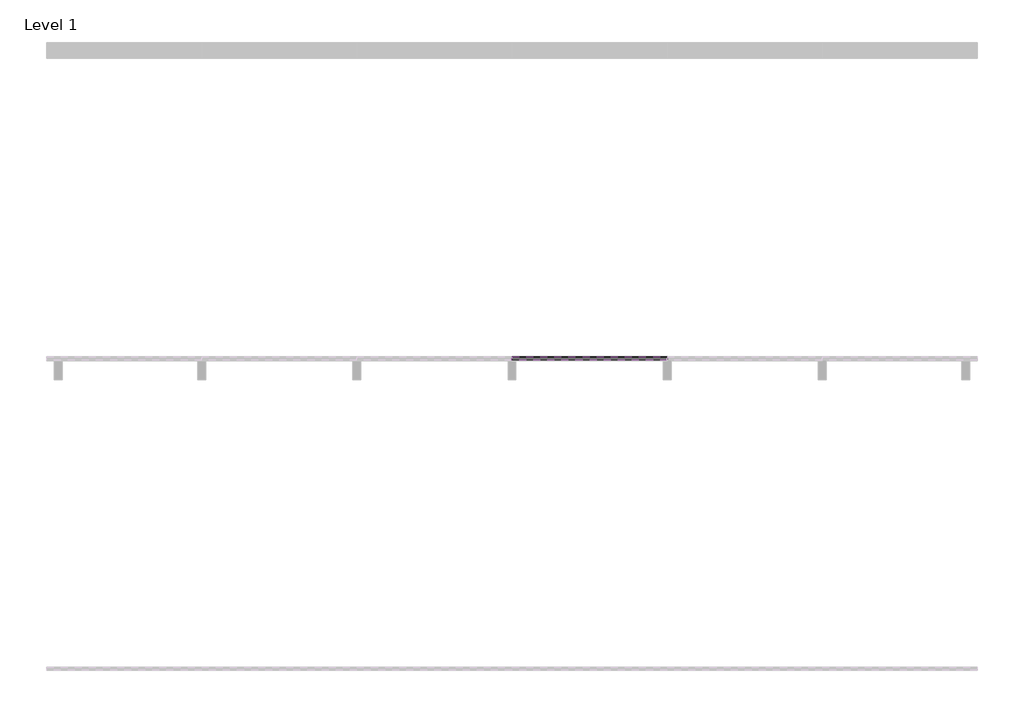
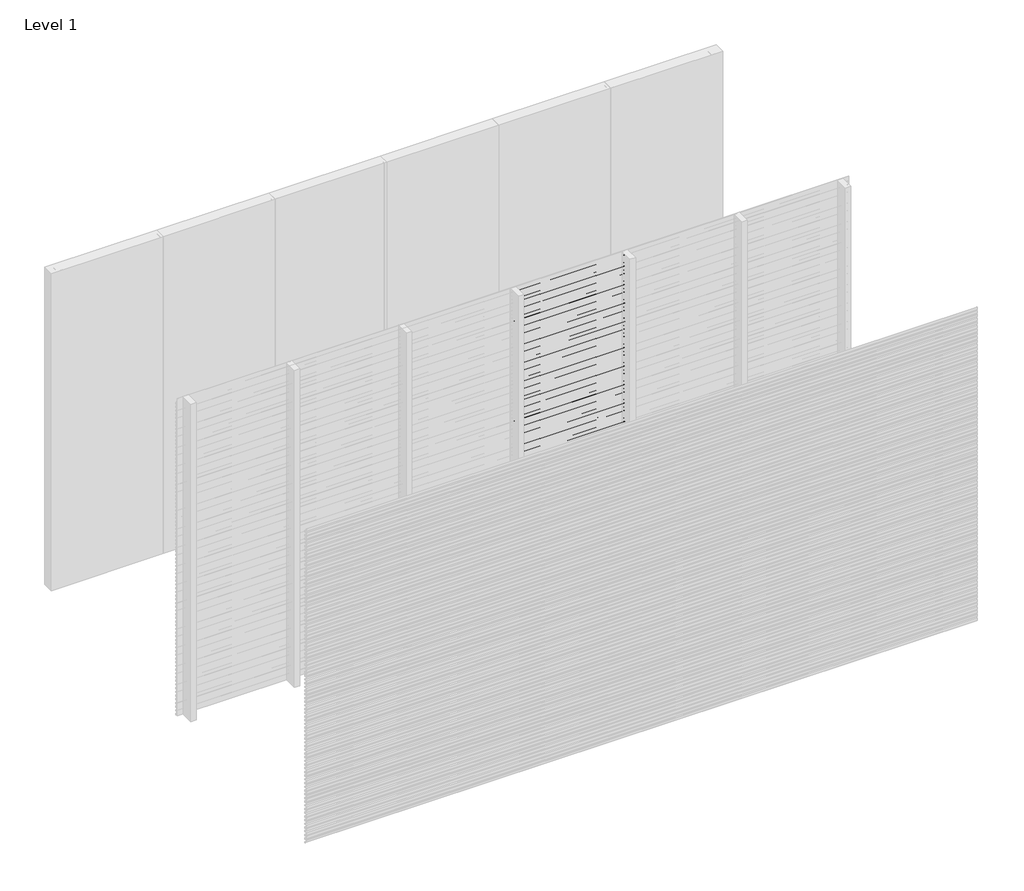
# One storey, part 5 of 25: 97 proxies.
"""IFC4 building model written with IfcOpenShell, lengths in millimetres."""

from ifc_helpers import new_model, si_unit, frame, origin, place, context, project, spatial, polyline, outline, extrude, element, save

model = new_model("IFC4")

# Units and contexts
model_context = context("Model", 3, world=origin())
ifc_project = project(units=[si_unit("LENGTHUNIT", "METRE", prefix="MILLI")], contexts=[model_context])

# Site, building, storey
site = spatial("IfcSite", under=ifc_project)
building = spatial("IfcBuilding", under=site)
storey = spatial("IfcBuildingStorey", under=building, Name="Level 1", Elevation=0.0)

# Proxies
placement = place(None, origin())
element("IfcBuildingElementProxy", 1, Name="Wall Sweeps", at=placement, inside=storey, context=model_context, shape_type="SweptSolid", body=[
    extrude(outline(polyline([(-17995.0, 2975.0), (-17995.0, 2963.942893), (-17976.0, 2948.0), (-17976.0, 2935.0), (-17997.0, 2952.6210923), (-17997.0, 2975.0), (-17995.0, 2975.0)])), frame((3000.0, 0.0, 0.0), z_axis=(1.0, 0.0, 0.0), x_axis=(0.0, 1.0, 0.0)), (0.0, 0.0, 1.0), 999.9999999),
])
element("IfcBuildingElementProxy", 2, Name="Wall Sweeps", at=placement, inside=storey, context=model_context, shape_type="SweptSolid", body=[
    extrude(outline(polyline([(-17995.0, 2940.0), (-17995.0, 2928.942893), (-17976.0, 2913.0), (-17976.0, 2900.0), (-17997.0, 2917.6210923), (-17997.0, 2940.0), (-17995.0, 2940.0)])), frame((3000.0, 0.0, 0.0), z_axis=(1.0, 0.0, 0.0), x_axis=(0.0, 1.0, 0.0)), (0.0, 0.0, 1.0), 999.9999999),
])
element("IfcBuildingElementProxy", 3, Name="Wall Sweeps", at=placement, inside=storey, context=model_context, shape_type="SweptSolid", body=[
    extrude(outline(polyline([(-17995.0, 2905.0), (-17995.0, 2893.942893), (-17976.0, 2878.0), (-17976.0, 2865.0), (-17997.0, 2882.6210923), (-17997.0, 2905.0), (-17995.0, 2905.0)])), frame((3000.0, 0.0, 0.0), z_axis=(1.0, 0.0, 0.0), x_axis=(0.0, 1.0, 0.0)), (0.0, 0.0, 1.0), 999.9999999),
])
element("IfcBuildingElementProxy", 4, Name="Wall Sweeps", at=placement, inside=storey, context=model_context, shape_type="SweptSolid", body=[
    extrude(outline(polyline([(-17995.0, 2870.0), (-17995.0, 2858.942893), (-17976.0, 2843.0), (-17976.0, 2830.0), (-17997.0, 2847.6210923), (-17997.0, 2870.0), (-17995.0, 2870.0)])), frame((3000.0, 0.0, 0.0), z_axis=(1.0, 0.0, 0.0), x_axis=(0.0, 1.0, 0.0)), (0.0, 0.0, 1.0), 999.9999999),
])
element("IfcBuildingElementProxy", 5, Name="Wall Sweeps", at=placement, inside=storey, context=model_context, shape_type="SweptSolid", body=[
    extrude(outline(polyline([(-17995.0, 2835.0), (-17995.0, 2823.942893), (-17976.0, 2808.0), (-17976.0, 2795.0), (-17997.0, 2812.6210923), (-17997.0, 2835.0), (-17995.0, 2835.0)])), frame((3000.0, 0.0, 0.0), z_axis=(1.0, 0.0, 0.0), x_axis=(0.0, 1.0, 0.0)), (0.0, 0.0, 1.0), 999.9999999),
])
element("IfcBuildingElementProxy", 6, Name="Wall Sweeps", at=placement, inside=storey, context=model_context, shape_type="SweptSolid", body=[
    extrude(outline(polyline([(-17995.0, 2800.0), (-17995.0, 2788.942893), (-17976.0, 2773.0), (-17976.0, 2760.0), (-17997.0, 2777.6210923), (-17997.0, 2800.0), (-17995.0, 2800.0)])), frame((3000.0, 0.0, 0.0), z_axis=(1.0, 0.0, 0.0), x_axis=(0.0, 1.0, 0.0)), (0.0, 0.0, 1.0), 999.9999999),
])
element("IfcBuildingElementProxy", 7, Name="Wall Sweeps", at=placement, inside=storey, context=model_context, shape_type="SweptSolid", body=[
    extrude(outline(polyline([(-17995.0, 2765.0), (-17995.0, 2753.942893), (-17976.0, 2738.0), (-17976.0, 2725.0), (-17997.0, 2742.6210923), (-17997.0, 2765.0), (-17995.0, 2765.0)])), frame((3000.0, 0.0, 0.0), z_axis=(1.0, 0.0, 0.0), x_axis=(0.0, 1.0, 0.0)), (0.0, 0.0, 1.0), 999.9999999),
])
element("IfcBuildingElementProxy", 8, Name="Wall Sweeps", at=placement, inside=storey, context=model_context, shape_type="SweptSolid", body=[
    extrude(outline(polyline([(-17995.0, 2730.0), (-17995.0, 2718.942893), (-17976.0, 2703.0), (-17976.0, 2690.0), (-17997.0, 2707.6210923), (-17997.0, 2730.0), (-17995.0, 2730.0)])), frame((3000.0, 0.0, 0.0), z_axis=(1.0, 0.0, 0.0), x_axis=(0.0, 1.0, 0.0)), (0.0, 0.0, 1.0), 999.9999999),
])
element("IfcBuildingElementProxy", 9, Name="Wall Sweeps", at=placement, inside=storey, context=model_context, shape_type="SweptSolid", body=[
    extrude(outline(polyline([(-17995.0, 2695.0), (-17995.0, 2683.942893), (-17976.0, 2668.0), (-17976.0, 2655.0), (-17997.0, 2672.6210923), (-17997.0, 2695.0), (-17995.0, 2695.0)])), frame((3000.0, 0.0, 0.0), z_axis=(1.0, 0.0, 0.0), x_axis=(0.0, 1.0, 0.0)), (0.0, 0.0, 1.0), 999.9999999),
])
element("IfcBuildingElementProxy", 10, Name="Wall Sweeps", at=placement, inside=storey, context=model_context, shape_type="SweptSolid", body=[
    extrude(outline(polyline([(-17995.0, 2660.0), (-17995.0, 2648.942893), (-17976.0, 2633.0), (-17976.0, 2620.0), (-17997.0, 2637.6210923), (-17997.0, 2660.0), (-17995.0, 2660.0)])), frame((3000.0, 0.0, 0.0), z_axis=(1.0, 0.0, 0.0), x_axis=(0.0, 1.0, 0.0)), (0.0, 0.0, 1.0), 999.9999999),
])
element("IfcBuildingElementProxy", 11, Name="Wall Sweeps", at=placement, inside=storey, context=model_context, shape_type="SweptSolid", body=[
    extrude(outline(polyline([(-17995.0, 2625.0), (-17995.0, 2613.942893), (-17976.0, 2598.0), (-17976.0, 2585.0), (-17997.0, 2602.6210923), (-17997.0, 2625.0), (-17995.0, 2625.0)])), frame((3000.0, 0.0, 0.0), z_axis=(1.0, 0.0, 0.0), x_axis=(0.0, 1.0, 0.0)), (0.0, 0.0, 1.0), 999.9999999),
])
element("IfcBuildingElementProxy", 12, Name="Wall Sweeps", at=placement, inside=storey, context=model_context, shape_type="SweptSolid", body=[
    extrude(outline(polyline([(-17995.0, 2590.0), (-17995.0, 2578.942893), (-17976.0, 2563.0), (-17976.0, 2550.0), (-17997.0, 2567.6210923), (-17997.0, 2590.0), (-17995.0, 2590.0)])), frame((3000.0, 0.0, 0.0), z_axis=(1.0, 0.0, 0.0), x_axis=(0.0, 1.0, 0.0)), (0.0, 0.0, 1.0), 999.9999999),
])
element("IfcBuildingElementProxy", 13, Name="Wall Sweeps", at=placement, inside=storey, context=model_context, shape_type="SweptSolid", body=[
    extrude(outline(polyline([(-17995.0, 2555.0), (-17995.0, 2543.942893), (-17976.0, 2528.0), (-17976.0, 2515.0), (-17997.0, 2532.6210923), (-17997.0, 2555.0), (-17995.0, 2555.0)])), frame((3000.0, 0.0, 0.0), z_axis=(1.0, 0.0, 0.0), x_axis=(0.0, 1.0, 0.0)), (0.0, 0.0, 1.0), 999.9999999),
])
element("IfcBuildingElementProxy", 14, Name="Wall Sweeps", at=placement, inside=storey, context=model_context, shape_type="SweptSolid", body=[
    extrude(outline(polyline([(-17995.0, 2520.0), (-17995.0, 2508.942893), (-17976.0, 2493.0), (-17976.0, 2480.0), (-17997.0, 2497.6210923), (-17997.0, 2520.0), (-17995.0, 2520.0)])), frame((3000.0, 0.0, 0.0), z_axis=(1.0, 0.0, 0.0), x_axis=(0.0, 1.0, 0.0)), (0.0, 0.0, 1.0), 999.9999999),
])
element("IfcBuildingElementProxy", 15, Name="Wall Sweeps", at=placement, inside=storey, context=model_context, shape_type="SweptSolid", body=[
    extrude(outline(polyline([(-17995.0, 2485.0), (-17995.0, 2473.942893), (-17976.0, 2458.0), (-17976.0, 2445.0), (-17997.0, 2462.6210923), (-17997.0, 2485.0), (-17995.0, 2485.0)])), frame((3000.0, 0.0, 0.0), z_axis=(1.0, 0.0, 0.0), x_axis=(0.0, 1.0, 0.0)), (0.0, 0.0, 1.0), 999.9999999),
])
element("IfcBuildingElementProxy", 16, Name="Wall Sweeps", at=placement, inside=storey, context=model_context, shape_type="SweptSolid", body=[
    extrude(outline(polyline([(-17995.0, 2450.0), (-17995.0, 2438.942893), (-17976.0, 2423.0), (-17976.0, 2410.0), (-17997.0, 2427.6210923), (-17997.0, 2450.0), (-17995.0, 2450.0)])), frame((3000.0, 0.0, 0.0), z_axis=(1.0, 0.0, 0.0), x_axis=(0.0, 1.0, 0.0)), (0.0, 0.0, 1.0), 999.9999999),
])
element("IfcBuildingElementProxy", 17, Name="Wall Sweeps", at=placement, inside=storey, context=model_context, shape_type="SweptSolid", body=[
    extrude(outline(polyline([(-17995.0, 2415.0), (-17995.0, 2403.942893), (-17976.0, 2388.0), (-17976.0, 2375.0), (-17997.0, 2392.6210923), (-17997.0, 2415.0), (-17995.0, 2415.0)])), frame((3000.0, 0.0, 0.0), z_axis=(1.0, 0.0, 0.0), x_axis=(0.0, 1.0, 0.0)), (0.0, 0.0, 1.0), 999.9999999),
])
element("IfcBuildingElementProxy", 18, Name="Wall Sweeps", at=placement, inside=storey, context=model_context, shape_type="SweptSolid", body=[
    extrude(outline(polyline([(-17995.0, 2380.0), (-17995.0, 2368.942893), (-17976.0, 2353.0), (-17976.0, 2340.0), (-17997.0, 2357.6210923), (-17997.0, 2380.0), (-17995.0, 2380.0)])), frame((3000.0, 0.0, 0.0), z_axis=(1.0, 0.0, 0.0), x_axis=(0.0, 1.0, 0.0)), (0.0, 0.0, 1.0), 999.9999999),
])
element("IfcBuildingElementProxy", 19, Name="Wall Sweeps", at=placement, inside=storey, context=model_context, shape_type="SweptSolid", body=[
    extrude(outline(polyline([(-17995.0, 2345.0), (-17995.0, 2333.942893), (-17976.0, 2318.0), (-17976.0, 2305.0), (-17997.0, 2322.6210923), (-17997.0, 2345.0), (-17995.0, 2345.0)])), frame((3000.0, 0.0, 0.0), z_axis=(1.0, 0.0, 0.0), x_axis=(0.0, 1.0, 0.0)), (0.0, 0.0, 1.0), 999.9999999),
])
element("IfcBuildingElementProxy", 20, Name="Wall Sweeps", at=placement, inside=storey, context=model_context, shape_type="SweptSolid", body=[
    extrude(outline(polyline([(-17995.0, 2310.0), (-17995.0, 2298.942893), (-17976.0, 2283.0), (-17976.0, 2270.0), (-17997.0, 2287.6210923), (-17997.0, 2310.0), (-17995.0, 2310.0)])), frame((3000.0, 0.0, 0.0), z_axis=(1.0, 0.0, 0.0), x_axis=(0.0, 1.0, 0.0)), (0.0, 0.0, 1.0), 999.9999999),
])
element("IfcBuildingElementProxy", 21, Name="Wall Sweeps", at=placement, inside=storey, context=model_context, shape_type="SweptSolid", body=[
    extrude(outline(polyline([(-17995.0, 2275.0), (-17995.0, 2263.942893), (-17976.0, 2248.0), (-17976.0, 2235.0), (-17997.0, 2252.6210923), (-17997.0, 2275.0), (-17995.0, 2275.0)])), frame((3000.0, 0.0, 0.0), z_axis=(1.0, 0.0, 0.0), x_axis=(0.0, 1.0, 0.0)), (0.0, 0.0, 1.0), 999.9999999),
])
element("IfcBuildingElementProxy", 22, Name="Wall Sweeps", at=placement, inside=storey, context=model_context, shape_type="SweptSolid", body=[
    extrude(outline(polyline([(-17995.0, 2240.0), (-17995.0, 2228.942893), (-17976.0, 2213.0), (-17976.0, 2200.0), (-17997.0, 2217.6210923), (-17997.0, 2240.0), (-17995.0, 2240.0)])), frame((3000.0, 0.0, 0.0), z_axis=(1.0, 0.0, 0.0), x_axis=(0.0, 1.0, 0.0)), (0.0, 0.0, 1.0), 999.9999999),
])
element("IfcBuildingElementProxy", 23, Name="Wall Sweeps", at=placement, inside=storey, context=model_context, shape_type="SweptSolid", body=[
    extrude(outline(polyline([(-17995.0, 2205.0), (-17995.0, 2193.942893), (-17976.0, 2178.0), (-17976.0, 2165.0), (-17997.0, 2182.6210923), (-17997.0, 2205.0), (-17995.0, 2205.0)])), frame((3000.0, 0.0, 0.0), z_axis=(1.0, 0.0, 0.0), x_axis=(0.0, 1.0, 0.0)), (0.0, 0.0, 1.0), 999.9999999),
])
element("IfcBuildingElementProxy", 24, Name="Wall Sweeps", at=placement, inside=storey, context=model_context, shape_type="SweptSolid", body=[
    extrude(outline(polyline([(-17995.0, 2170.0), (-17995.0, 2158.942893), (-17976.0, 2143.0), (-17976.0, 2130.0), (-17997.0, 2147.6210923), (-17997.0, 2170.0), (-17995.0, 2170.0)])), frame((3000.0, 0.0, 0.0), z_axis=(1.0, 0.0, 0.0), x_axis=(0.0, 1.0, 0.0)), (0.0, 0.0, 1.0), 999.9999999),
])
element("IfcBuildingElementProxy", 25, Name="Wall Sweeps", at=placement, inside=storey, context=model_context, shape_type="SweptSolid", body=[
    extrude(outline(polyline([(-17995.0, 2135.0), (-17995.0, 2123.942893), (-17976.0, 2108.0), (-17976.0, 2095.0), (-17997.0, 2112.6210923), (-17997.0, 2135.0), (-17995.0, 2135.0)])), frame((3000.0, 0.0, 0.0), z_axis=(1.0, 0.0, 0.0), x_axis=(0.0, 1.0, 0.0)), (0.0, 0.0, 1.0), 999.9999999),
])
element("IfcBuildingElementProxy", 26, Name="Wall Sweeps", at=placement, inside=storey, context=model_context, shape_type="SweptSolid", body=[
    extrude(outline(polyline([(-17995.0, 2100.0), (-17995.0, 2088.942893), (-17976.0, 2073.0), (-17976.0, 2060.0), (-17997.0, 2077.6210923), (-17997.0, 2100.0), (-17995.0, 2100.0)])), frame((3000.0, 0.0, 0.0), z_axis=(1.0, 0.0, 0.0), x_axis=(0.0, 1.0, 0.0)), (0.0, 0.0, 1.0), 999.9999999),
])
element("IfcBuildingElementProxy", 27, Name="Wall Sweeps", at=placement, inside=storey, context=model_context, shape_type="SweptSolid", body=[
    extrude(outline(polyline([(-17995.0, 2065.0), (-17995.0, 2053.942893), (-17976.0, 2038.0), (-17976.0, 2025.0), (-17997.0, 2042.6210923), (-17997.0, 2065.0), (-17995.0, 2065.0)])), frame((3000.0, 0.0, 0.0), z_axis=(1.0, 0.0, 0.0), x_axis=(0.0, 1.0, 0.0)), (0.0, 0.0, 1.0), 999.9999999),
])
element("IfcBuildingElementProxy", 28, Name="Wall Sweeps", at=placement, inside=storey, context=model_context, shape_type="SweptSolid", body=[
    extrude(outline(polyline([(-17995.0, 2030.0), (-17995.0, 2018.942893), (-17976.0, 2003.0), (-17976.0, 1990.0), (-17997.0, 2007.6210923), (-17997.0, 2030.0), (-17995.0, 2030.0)])), frame((3000.0, 0.0, 0.0), z_axis=(1.0, 0.0, 0.0), x_axis=(0.0, 1.0, 0.0)), (0.0, 0.0, 1.0), 999.9999999),
])
element("IfcBuildingElementProxy", 29, Name="Wall Sweeps", at=placement, inside=storey, context=model_context, shape_type="SweptSolid", body=[
    extrude(outline(polyline([(-17995.0, 1995.0), (-17995.0, 1983.942893), (-17976.0, 1968.0), (-17976.0, 1955.0), (-17997.0, 1972.6210923), (-17997.0, 1995.0), (-17995.0, 1995.0)])), frame((3000.0, 0.0, 0.0), z_axis=(1.0, 0.0, 0.0), x_axis=(0.0, 1.0, 0.0)), (0.0, 0.0, 1.0), 999.9999999),
])
element("IfcBuildingElementProxy", 30, Name="Wall Sweeps", at=placement, inside=storey, context=model_context, shape_type="SweptSolid", body=[
    extrude(outline(polyline([(-17995.0, 1960.0), (-17995.0, 1948.942893), (-17976.0, 1933.0), (-17976.0, 1920.0), (-17997.0, 1937.6210923), (-17997.0, 1960.0), (-17995.0, 1960.0)])), frame((3000.0, 0.0, 0.0), z_axis=(1.0, 0.0, 0.0), x_axis=(0.0, 1.0, 0.0)), (0.0, 0.0, 1.0), 999.9999999),
])
element("IfcBuildingElementProxy", 31, Name="Wall Sweeps", at=placement, inside=storey, context=model_context, shape_type="SweptSolid", body=[
    extrude(outline(polyline([(-17995.0, 1925.0), (-17995.0, 1913.942893), (-17976.0, 1898.0), (-17976.0, 1885.0), (-17997.0, 1902.6210923), (-17997.0, 1925.0), (-17995.0, 1925.0)])), frame((3000.0, 0.0, 0.0), z_axis=(1.0, 0.0, 0.0), x_axis=(0.0, 1.0, 0.0)), (0.0, 0.0, 1.0), 999.9999999),
])
element("IfcBuildingElementProxy", 32, Name="Wall Sweeps", at=placement, inside=storey, context=model_context, shape_type="SweptSolid", body=[
    extrude(outline(polyline([(-17995.0, 1890.0), (-17995.0, 1878.942893), (-17976.0, 1863.0), (-17976.0, 1850.0), (-17997.0, 1867.6210923), (-17997.0, 1890.0), (-17995.0, 1890.0)])), frame((3000.0, 0.0, 0.0), z_axis=(1.0, 0.0, 0.0), x_axis=(0.0, 1.0, 0.0)), (0.0, 0.0, 1.0), 999.9999999),
])
element("IfcBuildingElementProxy", 33, Name="Wall Sweeps", at=placement, inside=storey, context=model_context, shape_type="SweptSolid", body=[
    extrude(outline(polyline([(-17995.0, 1855.0), (-17995.0, 1843.942893), (-17976.0, 1828.0), (-17976.0, 1815.0), (-17997.0, 1832.6210923), (-17997.0, 1855.0), (-17995.0, 1855.0)])), frame((3000.0, 0.0, 0.0), z_axis=(1.0, 0.0, 0.0), x_axis=(0.0, 1.0, 0.0)), (0.0, 0.0, 1.0), 999.9999999),
])
element("IfcBuildingElementProxy", 34, Name="Wall Sweeps", at=placement, inside=storey, context=model_context, shape_type="SweptSolid", body=[
    extrude(outline(polyline([(-17995.0, 1820.0), (-17995.0, 1808.942893), (-17976.0, 1793.0), (-17976.0, 1780.0), (-17997.0, 1797.6210923), (-17997.0, 1820.0), (-17995.0, 1820.0)])), frame((3000.0, 0.0, 0.0), z_axis=(1.0, 0.0, 0.0), x_axis=(0.0, 1.0, 0.0)), (0.0, 0.0, 1.0), 999.9999999),
])
element("IfcBuildingElementProxy", 35, Name="Wall Sweeps", at=placement, inside=storey, context=model_context, shape_type="SweptSolid", body=[
    extrude(outline(polyline([(-17995.0, 1785.0), (-17995.0, 1773.942893), (-17976.0, 1758.0), (-17976.0, 1745.0), (-17997.0, 1762.6210923), (-17997.0, 1785.0), (-17995.0, 1785.0)])), frame((3000.0, 0.0, 0.0), z_axis=(1.0, 0.0, 0.0), x_axis=(0.0, 1.0, 0.0)), (0.0, 0.0, 1.0), 999.9999999),
])
element("IfcBuildingElementProxy", 36, Name="Wall Sweeps", at=placement, inside=storey, context=model_context, shape_type="SweptSolid", body=[
    extrude(outline(polyline([(-17995.0, 1750.0), (-17995.0, 1738.942893), (-17976.0, 1723.0), (-17976.0, 1710.0), (-17997.0, 1727.6210923), (-17997.0, 1750.0), (-17995.0, 1750.0)])), frame((3000.0, 0.0, 0.0), z_axis=(1.0, 0.0, 0.0), x_axis=(0.0, 1.0, 0.0)), (0.0, 0.0, 1.0), 999.9999999),
])
element("IfcBuildingElementProxy", 37, Name="Wall Sweeps", at=placement, inside=storey, context=model_context, shape_type="SweptSolid", body=[
    extrude(outline(polyline([(-17995.0, 1715.0), (-17995.0, 1703.942893), (-17976.0, 1688.0), (-17976.0, 1675.0), (-17997.0, 1692.6210923), (-17997.0, 1715.0), (-17995.0, 1715.0)])), frame((3000.0, 0.0, 0.0), z_axis=(1.0, 0.0, 0.0), x_axis=(0.0, 1.0, 0.0)), (0.0, 0.0, 1.0), 999.9999999),
])
element("IfcBuildingElementProxy", 38, Name="Wall Sweeps", at=placement, inside=storey, context=model_context, shape_type="SweptSolid", body=[
    extrude(outline(polyline([(-17995.0, 1680.0), (-17995.0, 1668.942893), (-17976.0, 1653.0), (-17976.0, 1640.0), (-17997.0, 1657.6210923), (-17997.0, 1680.0), (-17995.0, 1680.0)])), frame((3000.0, 0.0, 0.0), z_axis=(1.0, 0.0, 0.0), x_axis=(0.0, 1.0, 0.0)), (0.0, 0.0, 1.0), 999.9999999),
])
element("IfcBuildingElementProxy", 39, Name="Wall Sweeps", at=placement, inside=storey, context=model_context, shape_type="SweptSolid", body=[
    extrude(outline(polyline([(-17995.0, 1645.0), (-17995.0, 1633.942893), (-17976.0, 1618.0), (-17976.0, 1605.0), (-17997.0, 1622.6210923), (-17997.0, 1645.0), (-17995.0, 1645.0)])), frame((3000.0, 0.0, 0.0), z_axis=(1.0, 0.0, 0.0), x_axis=(0.0, 1.0, 0.0)), (0.0, 0.0, 1.0), 999.9999999),
])
element("IfcBuildingElementProxy", 40, Name="Wall Sweeps", at=placement, inside=storey, context=model_context, shape_type="SweptSolid", body=[
    extrude(outline(polyline([(-17995.0, 1610.0), (-17995.0, 1598.942893), (-17976.0, 1583.0), (-17976.0, 1570.0), (-17997.0, 1587.6210923), (-17997.0, 1610.0), (-17995.0, 1610.0)])), frame((3000.0, 0.0, 0.0), z_axis=(1.0, 0.0, 0.0), x_axis=(0.0, 1.0, 0.0)), (0.0, 0.0, 1.0), 999.9999999),
])
element("IfcBuildingElementProxy", 41, Name="Wall Sweeps", at=placement, inside=storey, context=model_context, shape_type="SweptSolid", body=[
    extrude(outline(polyline([(-17995.0, 1575.0), (-17995.0, 1563.942893), (-17976.0, 1548.0), (-17976.0, 1535.0), (-17997.0, 1552.6210923), (-17997.0, 1575.0), (-17995.0, 1575.0)])), frame((3000.0, 0.0, 0.0), z_axis=(1.0, 0.0, 0.0), x_axis=(0.0, 1.0, 0.0)), (0.0, 0.0, 1.0), 999.9999999),
])
element("IfcBuildingElementProxy", 42, Name="Wall Sweeps", at=placement, inside=storey, context=model_context, shape_type="SweptSolid", body=[
    extrude(outline(polyline([(-17995.0, 1540.0), (-17995.0, 1528.942893), (-17976.0, 1513.0), (-17976.0, 1500.0), (-17997.0, 1517.6210923), (-17997.0, 1540.0), (-17995.0, 1540.0)])), frame((3000.0, 0.0, 0.0), z_axis=(1.0, 0.0, 0.0), x_axis=(0.0, 1.0, 0.0)), (0.0, 0.0, 1.0), 999.9999999),
])
element("IfcBuildingElementProxy", 43, Name="Wall Sweeps", at=placement, inside=storey, context=model_context, shape_type="SweptSolid", body=[
    extrude(outline(polyline([(-17995.0, 1505.0), (-17995.0, 1493.942893), (-17976.0, 1478.0), (-17976.0, 1465.0), (-17997.0, 1482.6210923), (-17997.0, 1505.0), (-17995.0, 1505.0)])), frame((3000.0, 0.0, 0.0), z_axis=(1.0, 0.0, 0.0), x_axis=(0.0, 1.0, 0.0)), (0.0, 0.0, 1.0), 999.9999999),
])
element("IfcBuildingElementProxy", 44, Name="Wall Sweeps", at=placement, inside=storey, context=model_context, shape_type="SweptSolid", body=[
    extrude(outline(polyline([(-17995.0, 1470.0), (-17995.0, 1458.942893), (-17976.0, 1443.0), (-17976.0, 1430.0), (-17997.0, 1447.6210923), (-17997.0, 1470.0), (-17995.0, 1470.0)])), frame((3000.0, 0.0, 0.0), z_axis=(1.0, 0.0, 0.0), x_axis=(0.0, 1.0, 0.0)), (0.0, 0.0, 1.0), 999.9999999),
])
element("IfcBuildingElementProxy", 45, Name="Wall Sweeps", at=placement, inside=storey, context=model_context, shape_type="SweptSolid", body=[
    extrude(outline(polyline([(-17995.0, 1435.0), (-17995.0, 1423.942893), (-17976.0, 1408.0), (-17976.0, 1395.0), (-17997.0, 1412.6210923), (-17997.0, 1435.0), (-17995.0, 1435.0)])), frame((3000.0, 0.0, 0.0), z_axis=(1.0, 0.0, 0.0), x_axis=(0.0, 1.0, 0.0)), (0.0, 0.0, 1.0), 999.9999999),
])
element("IfcBuildingElementProxy", 46, Name="Wall Sweeps", at=placement, inside=storey, context=model_context, shape_type="SweptSolid", body=[
    extrude(outline(polyline([(-17995.0, 1400.0), (-17995.0, 1388.942893), (-17976.0, 1373.0), (-17976.0, 1360.0), (-17997.0, 1377.6210923), (-17997.0, 1400.0), (-17995.0, 1400.0)])), frame((3000.0, 0.0, 0.0), z_axis=(1.0, 0.0, 0.0), x_axis=(0.0, 1.0, 0.0)), (0.0, 0.0, 1.0), 999.9999999),
])
element("IfcBuildingElementProxy", 47, Name="Wall Sweeps", at=placement, inside=storey, context=model_context, shape_type="SweptSolid", body=[
    extrude(outline(polyline([(-17995.0, 1365.0), (-17995.0, 1353.942893), (-17976.0, 1338.0), (-17976.0, 1325.0), (-17997.0, 1342.6210923), (-17997.0, 1365.0), (-17995.0, 1365.0)])), frame((3000.0, 0.0, 0.0), z_axis=(1.0, 0.0, 0.0), x_axis=(0.0, 1.0, 0.0)), (0.0, 0.0, 1.0), 999.9999999),
])
element("IfcBuildingElementProxy", 48, Name="Wall Sweeps", at=placement, inside=storey, context=model_context, shape_type="SweptSolid", body=[
    extrude(outline(polyline([(-17995.0, 1330.0), (-17995.0, 1318.942893), (-17976.0, 1303.0), (-17976.0, 1290.0), (-17997.0, 1307.6210923), (-17997.0, 1330.0), (-17995.0, 1330.0)])), frame((3000.0, 0.0, 0.0), z_axis=(1.0, 0.0, 0.0), x_axis=(0.0, 1.0, 0.0)), (0.0, 0.0, 1.0), 999.9999999),
])
element("IfcBuildingElementProxy", 49, Name="Wall Sweeps", at=placement, inside=storey, context=model_context, shape_type="SweptSolid", body=[
    extrude(outline(polyline([(-17995.0, 1295.0), (-17995.0, 1283.942893), (-17976.0, 1268.0), (-17976.0, 1255.0), (-17997.0, 1272.6210923), (-17997.0, 1295.0), (-17995.0, 1295.0)])), frame((3000.0, 0.0, 0.0), z_axis=(1.0, 0.0, 0.0), x_axis=(0.0, 1.0, 0.0)), (0.0, 0.0, 1.0), 999.9999999),
])
element("IfcBuildingElementProxy", 50, Name="Wall Sweeps", at=placement, inside=storey, context=model_context, shape_type="SweptSolid", body=[
    extrude(outline(polyline([(-17995.0, 1260.0), (-17995.0, 1248.942893), (-17976.0, 1233.0), (-17976.0, 1220.0), (-17997.0, 1237.6210923), (-17997.0, 1260.0), (-17995.0, 1260.0)])), frame((3000.0, 0.0, 0.0), z_axis=(1.0, 0.0, 0.0), x_axis=(0.0, 1.0, 0.0)), (0.0, 0.0, 1.0), 999.9999999),
])
element("IfcBuildingElementProxy", 51, Name="Wall Sweeps", at=placement, inside=storey, context=model_context, shape_type="SweptSolid", body=[
    extrude(outline(polyline([(-17995.0, 1225.0), (-17995.0, 1213.942893), (-17976.0, 1198.0), (-17976.0, 1185.0), (-17997.0, 1202.6210923), (-17997.0, 1225.0), (-17995.0, 1225.0)])), frame((3000.0, 0.0, 0.0), z_axis=(1.0, 0.0, 0.0), x_axis=(0.0, 1.0, 0.0)), (0.0, 0.0, 1.0), 999.9999999),
])
element("IfcBuildingElementProxy", 52, Name="Wall Sweeps", at=placement, inside=storey, context=model_context, shape_type="SweptSolid", body=[
    extrude(outline(polyline([(-17995.0, 1190.0), (-17995.0, 1178.942893), (-17976.0, 1163.0), (-17976.0, 1150.0), (-17997.0, 1167.6210923), (-17997.0, 1190.0), (-17995.0, 1190.0)])), frame((3000.0, 0.0, 0.0), z_axis=(1.0, 0.0, 0.0), x_axis=(0.0, 1.0, 0.0)), (0.0, 0.0, 1.0), 999.9999999),
])
element("IfcBuildingElementProxy", 53, Name="Wall Sweeps", at=placement, inside=storey, context=model_context, shape_type="SweptSolid", body=[
    extrude(outline(polyline([(-17995.0, 1155.0), (-17995.0, 1143.942893), (-17976.0, 1128.0), (-17976.0, 1115.0), (-17997.0, 1132.6210923), (-17997.0, 1155.0), (-17995.0, 1155.0)])), frame((3000.0, 0.0, 0.0), z_axis=(1.0, 0.0, 0.0), x_axis=(0.0, 1.0, 0.0)), (0.0, 0.0, 1.0), 999.9999999),
])
element("IfcBuildingElementProxy", 54, Name="Wall Sweeps", at=placement, inside=storey, context=model_context, shape_type="SweptSolid", body=[
    extrude(outline(polyline([(-17995.0, 1120.0), (-17995.0, 1108.942893), (-17976.0, 1093.0), (-17976.0, 1080.0), (-17997.0, 1097.6210923), (-17997.0, 1120.0), (-17995.0, 1120.0)])), frame((3000.0, 0.0, 0.0), z_axis=(1.0, 0.0, 0.0), x_axis=(0.0, 1.0, 0.0)), (0.0, 0.0, 1.0), 999.9999999),
])
element("IfcBuildingElementProxy", 55, Name="Wall Sweeps", at=placement, inside=storey, context=model_context, shape_type="SweptSolid", body=[
    extrude(outline(polyline([(-17995.0, 1085.0), (-17995.0, 1073.942893), (-17976.0, 1058.0), (-17976.0, 1045.0), (-17997.0, 1062.6210923), (-17997.0, 1085.0), (-17995.0, 1085.0)])), frame((3000.0, 0.0, 0.0), z_axis=(1.0, 0.0, 0.0), x_axis=(0.0, 1.0, 0.0)), (0.0, 0.0, 1.0), 999.9999999),
])
element("IfcBuildingElementProxy", 56, Name="Wall Sweeps", at=placement, inside=storey, context=model_context, shape_type="SweptSolid", body=[
    extrude(outline(polyline([(-17995.0, 1050.0), (-17995.0, 1038.942893), (-17976.0, 1023.0), (-17976.0, 1010.0), (-17997.0, 1027.6210923), (-17997.0, 1050.0), (-17995.0, 1050.0)])), frame((3000.0, 0.0, 0.0), z_axis=(1.0, 0.0, 0.0), x_axis=(0.0, 1.0, 0.0)), (0.0, 0.0, 1.0), 999.9999999),
])
element("IfcBuildingElementProxy", 57, Name="Wall Sweeps", at=placement, inside=storey, context=model_context, shape_type="SweptSolid", body=[
    extrude(outline(polyline([(-17995.0, 1015.0), (-17995.0, 1003.942893), (-17976.0, 988.0), (-17976.0, 975.0), (-17997.0, 992.6210923), (-17997.0, 1015.0), (-17995.0, 1015.0)])), frame((3000.0, 0.0, 0.0), z_axis=(1.0, 0.0, 0.0), x_axis=(0.0, 1.0, 0.0)), (0.0, 0.0, 1.0), 999.9999999),
])
element("IfcBuildingElementProxy", 58, Name="Wall Sweeps", at=placement, inside=storey, context=model_context, shape_type="SweptSolid", body=[
    extrude(outline(polyline([(-17995.0, 980.0), (-17995.0, 968.942893), (-17976.0, 953.0), (-17976.0, 940.0), (-17997.0, 957.6210923), (-17997.0, 980.0), (-17995.0, 980.0)])), frame((3000.0, 0.0, 0.0), z_axis=(1.0, 0.0, 0.0), x_axis=(0.0, 1.0, 0.0)), (0.0, 0.0, 1.0), 999.9999999),
])
element("IfcBuildingElementProxy", 59, Name="Wall Sweeps", at=placement, inside=storey, context=model_context, shape_type="SweptSolid", body=[
    extrude(outline(polyline([(-17995.0, 945.0), (-17995.0, 933.942893), (-17976.0, 918.0), (-17976.0, 905.0), (-17997.0, 922.6210923), (-17997.0, 945.0), (-17995.0, 945.0)])), frame((3000.0, 0.0, 0.0), z_axis=(1.0, 0.0, 0.0), x_axis=(0.0, 1.0, 0.0)), (0.0, 0.0, 1.0), 999.9999999),
])
element("IfcBuildingElementProxy", 60, Name="Wall Sweeps", at=placement, inside=storey, context=model_context, shape_type="SweptSolid", body=[
    extrude(outline(polyline([(-17995.0, 910.0), (-17995.0, 898.942893), (-17976.0, 883.0), (-17976.0, 870.0), (-17997.0, 887.6210923), (-17997.0, 910.0), (-17995.0, 910.0)])), frame((3000.0, 0.0, 0.0), z_axis=(1.0, 0.0, 0.0), x_axis=(0.0, 1.0, 0.0)), (0.0, 0.0, 1.0), 999.9999999),
])
element("IfcBuildingElementProxy", 61, Name="Wall Sweeps", at=placement, inside=storey, context=model_context, shape_type="SweptSolid", body=[
    extrude(outline(polyline([(-17995.0, 875.0), (-17995.0, 863.942893), (-17976.0, 848.0), (-17976.0, 835.0), (-17997.0, 852.6210923), (-17997.0, 875.0), (-17995.0, 875.0)])), frame((3000.0, 0.0, 0.0), z_axis=(1.0, 0.0, 0.0), x_axis=(0.0, 1.0, 0.0)), (0.0, 0.0, 1.0), 999.9999999),
])
element("IfcBuildingElementProxy", 62, Name="Wall Sweeps", at=placement, inside=storey, context=model_context, shape_type="SweptSolid", body=[
    extrude(outline(polyline([(-17995.0, 840.0), (-17995.0, 828.942893), (-17976.0, 813.0), (-17976.0, 800.0), (-17997.0, 817.6210923), (-17997.0, 840.0), (-17995.0, 840.0)])), frame((3000.0, 0.0, 0.0), z_axis=(1.0, 0.0, 0.0), x_axis=(0.0, 1.0, 0.0)), (0.0, 0.0, 1.0), 999.9999999),
])
element("IfcBuildingElementProxy", 63, Name="Wall Sweeps", at=placement, inside=storey, context=model_context, shape_type="SweptSolid", body=[
    extrude(outline(polyline([(-17995.0, 805.0), (-17995.0, 793.942893), (-17976.0, 778.0), (-17976.0, 765.0), (-17997.0, 782.6210923), (-17997.0, 805.0), (-17995.0, 805.0)])), frame((3000.0, 0.0, 0.0), z_axis=(1.0, 0.0, 0.0), x_axis=(0.0, 1.0, 0.0)), (0.0, 0.0, 1.0), 999.9999999),
])
element("IfcBuildingElementProxy", 64, Name="Wall Sweeps", at=placement, inside=storey, context=model_context, shape_type="SweptSolid", body=[
    extrude(outline(polyline([(-17995.0, 770.0), (-17995.0, 758.942893), (-17976.0, 743.0), (-17976.0, 730.0), (-17997.0, 747.6210923), (-17997.0, 770.0), (-17995.0, 770.0)])), frame((3000.0, 0.0, 0.0), z_axis=(1.0, 0.0, 0.0), x_axis=(0.0, 1.0, 0.0)), (0.0, 0.0, 1.0), 999.9999999),
])
element("IfcBuildingElementProxy", 65, Name="Wall Sweeps", at=placement, inside=storey, context=model_context, shape_type="SweptSolid", body=[
    extrude(outline(polyline([(-17995.0, 735.0), (-17995.0, 723.942893), (-17976.0, 708.0), (-17976.0, 695.0), (-17997.0, 712.6210923), (-17997.0, 735.0), (-17995.0, 735.0)])), frame((3000.0, 0.0, 0.0), z_axis=(1.0, 0.0, 0.0), x_axis=(0.0, 1.0, 0.0)), (0.0, 0.0, 1.0), 999.9999999),
])
element("IfcBuildingElementProxy", 66, Name="Wall Sweeps", at=placement, inside=storey, context=model_context, shape_type="SweptSolid", body=[
    extrude(outline(polyline([(-17995.0, 1120.0), (-17995.0, 1108.942893), (-17976.0, 1093.0), (-17976.0, 1080.0), (-17997.0, 1097.6210923), (-17997.0, 1120.0), (-17995.0, 1120.0)])), frame((2000.0000001, 0.0, 0.0), z_axis=(1.0, 0.0, 0.0), x_axis=(0.0, 1.0, 0.0)), (0.0, 0.0, 1.0), 999.9999999),
])
element("IfcBuildingElementProxy", 67, Name="Wall Sweeps", at=placement, inside=storey, context=model_context, shape_type="SweptSolid", body=[
    extrude(outline(polyline([(-17995.0, 1085.0), (-17995.0, 1073.942893), (-17976.0, 1058.0), (-17976.0, 1045.0), (-17997.0, 1062.6210923), (-17997.0, 1085.0), (-17995.0, 1085.0)])), frame((2000.0000001, 0.0, 0.0), z_axis=(1.0, 0.0, 0.0), x_axis=(0.0, 1.0, 0.0)), (0.0, 0.0, 1.0), 999.9999999),
])
element("IfcBuildingElementProxy", 68, Name="Wall Sweeps", at=placement, inside=storey, context=model_context, shape_type="SweptSolid", body=[
    extrude(outline(polyline([(-17995.0, 1050.0), (-17995.0, 1038.942893), (-17976.0, 1023.0), (-17976.0, 1010.0), (-17997.0, 1027.6210923), (-17997.0, 1050.0), (-17995.0, 1050.0)])), frame((2000.0000001, 0.0, 0.0), z_axis=(1.0, 0.0, 0.0), x_axis=(0.0, 1.0, 0.0)), (0.0, 0.0, 1.0), 999.9999999),
])
element("IfcBuildingElementProxy", 69, Name="Wall Sweeps", at=placement, inside=storey, context=model_context, shape_type="SweptSolid", body=[
    extrude(outline(polyline([(-17995.0, 1015.0), (-17995.0, 1003.942893), (-17976.0, 988.0), (-17976.0, 975.0), (-17997.0, 992.6210923), (-17997.0, 1015.0), (-17995.0, 1015.0)])), frame((2000.0000001, 0.0, 0.0), z_axis=(1.0, 0.0, 0.0), x_axis=(0.0, 1.0, 0.0)), (0.0, 0.0, 1.0), 999.9999999),
])
element("IfcBuildingElementProxy", 70, Name="Wall Sweeps", at=placement, inside=storey, context=model_context, shape_type="SweptSolid", body=[
    extrude(outline(polyline([(-17995.0, 980.0), (-17995.0, 968.942893), (-17976.0, 953.0), (-17976.0, 940.0), (-17997.0, 957.6210923), (-17997.0, 980.0), (-17995.0, 980.0)])), frame((2000.0000001, 0.0, 0.0), z_axis=(1.0, 0.0, 0.0), x_axis=(0.0, 1.0, 0.0)), (0.0, 0.0, 1.0), 999.9999999),
])
element("IfcBuildingElementProxy", 71, Name="Wall Sweeps", at=placement, inside=storey, context=model_context, shape_type="SweptSolid", body=[
    extrude(outline(polyline([(-17995.0, 945.0), (-17995.0, 933.942893), (-17976.0, 918.0), (-17976.0, 905.0), (-17997.0, 922.6210923), (-17997.0, 945.0), (-17995.0, 945.0)])), frame((2000.0000001, 0.0, 0.0), z_axis=(1.0, 0.0, 0.0), x_axis=(0.0, 1.0, 0.0)), (0.0, 0.0, 1.0), 999.9999999),
])
element("IfcBuildingElementProxy", 72, Name="Wall Sweeps", at=placement, inside=storey, context=model_context, shape_type="SweptSolid", body=[
    extrude(outline(polyline([(-17995.0, 910.0), (-17995.0, 898.942893), (-17976.0, 883.0), (-17976.0, 870.0), (-17997.0, 887.6210923), (-17997.0, 910.0), (-17995.0, 910.0)])), frame((2000.0000001, 0.0, 0.0), z_axis=(1.0, 0.0, 0.0), x_axis=(0.0, 1.0, 0.0)), (0.0, 0.0, 1.0), 999.9999999),
])
element("IfcBuildingElementProxy", 73, Name="Wall Sweeps", at=placement, inside=storey, context=model_context, shape_type="SweptSolid", body=[
    extrude(outline(polyline([(-17995.0, 875.0), (-17995.0, 863.942893), (-17976.0, 848.0), (-17976.0, 835.0), (-17997.0, 852.6210923), (-17997.0, 875.0), (-17995.0, 875.0)])), frame((2000.0000001, 0.0, 0.0), z_axis=(1.0, 0.0, 0.0), x_axis=(0.0, 1.0, 0.0)), (0.0, 0.0, 1.0), 999.9999999),
])
element("IfcBuildingElementProxy", 74, Name="Wall Sweeps", at=placement, inside=storey, context=model_context, shape_type="SweptSolid", body=[
    extrude(outline(polyline([(-17995.0, 840.0), (-17995.0, 828.942893), (-17976.0, 813.0), (-17976.0, 800.0), (-17997.0, 817.6210923), (-17997.0, 840.0), (-17995.0, 840.0)])), frame((2000.0000001, 0.0, 0.0), z_axis=(1.0, 0.0, 0.0), x_axis=(0.0, 1.0, 0.0)), (0.0, 0.0, 1.0), 999.9999999),
])
element("IfcBuildingElementProxy", 75, Name="Wall Sweeps", at=placement, inside=storey, context=model_context, shape_type="SweptSolid", body=[
    extrude(outline(polyline([(-17995.0, 805.0), (-17995.0, 793.942893), (-17976.0, 778.0), (-17976.0, 765.0), (-17997.0, 782.6210923), (-17997.0, 805.0), (-17995.0, 805.0)])), frame((2000.0000001, 0.0, 0.0), z_axis=(1.0, 0.0, 0.0), x_axis=(0.0, 1.0, 0.0)), (0.0, 0.0, 1.0), 999.9999999),
])
element("IfcBuildingElementProxy", 76, Name="Wall Sweeps", at=placement, inside=storey, context=model_context, shape_type="SweptSolid", body=[
    extrude(outline(polyline([(-17995.0, 770.0), (-17995.0, 758.942893), (-17976.0, 743.0), (-17976.0, 730.0), (-17997.0, 747.6210923), (-17997.0, 770.0), (-17995.0, 770.0)])), frame((2000.0000001, 0.0, 0.0), z_axis=(1.0, 0.0, 0.0), x_axis=(0.0, 1.0, 0.0)), (0.0, 0.0, 1.0), 999.9999999),
])
element("IfcBuildingElementProxy", 77, Name="Wall Sweeps", at=placement, inside=storey, context=model_context, shape_type="SweptSolid", body=[
    extrude(outline(polyline([(-17995.0, 735.0), (-17995.0, 723.942893), (-17976.0, 708.0), (-17976.0, 695.0), (-17997.0, 712.6210923), (-17997.0, 735.0), (-17995.0, 735.0)])), frame((2000.0000001, 0.0, 0.0), z_axis=(1.0, 0.0, 0.0), x_axis=(0.0, 1.0, 0.0)), (0.0, 0.0, 1.0), 999.9999999),
])
element("IfcBuildingElementProxy", 78, Name="Wall Sweeps", at=placement, inside=storey, context=model_context, shape_type="SweptSolid", body=[
    extrude(outline(polyline([(-17995.0, 700.0), (-17995.0, 688.942893), (-17976.0, 673.0), (-17976.0, 660.0), (-17997.0, 677.6210923), (-17997.0, 700.0), (-17995.0, 700.0)])), frame((2000.0000001, 0.0, 0.0), z_axis=(1.0, 0.0, 0.0), x_axis=(0.0, 1.0, 0.0)), (0.0, 0.0, 1.0), 999.9999999),
])
element("IfcBuildingElementProxy", 79, Name="Wall Sweeps", at=placement, inside=storey, context=model_context, shape_type="SweptSolid", body=[
    extrude(outline(polyline([(-17995.0, 665.0), (-17995.0, 653.942893), (-17976.0, 638.0), (-17976.0, 625.0), (-17997.0, 642.6210923), (-17997.0, 665.0), (-17995.0, 665.0)])), frame((2000.0000001, 0.0, 0.0), z_axis=(1.0, 0.0, 0.0), x_axis=(0.0, 1.0, 0.0)), (0.0, 0.0, 1.0), 999.9999999),
])
element("IfcBuildingElementProxy", 80, Name="Wall Sweeps", at=placement, inside=storey, context=model_context, shape_type="SweptSolid", body=[
    extrude(outline(polyline([(-17995.0, 630.0), (-17995.0, 618.942893), (-17976.0, 603.0), (-17976.0, 590.0), (-17997.0, 607.6210923), (-17997.0, 630.0), (-17995.0, 630.0)])), frame((2000.0000001, 0.0, 0.0), z_axis=(1.0, 0.0, 0.0), x_axis=(0.0, 1.0, 0.0)), (0.0, 0.0, 1.0), 999.9999999),
])
element("IfcBuildingElementProxy", 81, Name="Wall Sweeps", at=placement, inside=storey, context=model_context, shape_type="SweptSolid", body=[
    extrude(outline(polyline([(-17995.0, 595.0), (-17995.0, 583.942893), (-17976.0, 568.0), (-17976.0, 555.0), (-17997.0, 572.6210923), (-17997.0, 595.0), (-17995.0, 595.0)])), frame((2000.0000001, 0.0, 0.0), z_axis=(1.0, 0.0, 0.0), x_axis=(0.0, 1.0, 0.0)), (0.0, 0.0, 1.0), 999.9999999),
])
element("IfcBuildingElementProxy", 82, Name="Wall Sweeps", at=placement, inside=storey, context=model_context, shape_type="SweptSolid", body=[
    extrude(outline(polyline([(-17995.0, 560.0), (-17995.0, 548.942893), (-17976.0, 533.0), (-17976.0, 520.0), (-17997.0, 537.6210923), (-17997.0, 560.0), (-17995.0, 560.0)])), frame((2000.0000001, 0.0, 0.0), z_axis=(1.0, 0.0, 0.0), x_axis=(0.0, 1.0, 0.0)), (0.0, 0.0, 1.0), 999.9999999),
])
element("IfcBuildingElementProxy", 83, Name="Wall Sweeps", at=placement, inside=storey, context=model_context, shape_type="SweptSolid", body=[
    extrude(outline(polyline([(-17995.0, 525.0), (-17995.0, 513.942893), (-17976.0, 498.0), (-17976.0, 485.0), (-17997.0, 502.6210923), (-17997.0, 525.0), (-17995.0, 525.0)])), frame((2000.0000001, 0.0, 0.0), z_axis=(1.0, 0.0, 0.0), x_axis=(0.0, 1.0, 0.0)), (0.0, 0.0, 1.0), 999.9999999),
])
element("IfcBuildingElementProxy", 84, Name="Wall Sweeps", at=placement, inside=storey, context=model_context, shape_type="SweptSolid", body=[
    extrude(outline(polyline([(-17995.0, 490.0), (-17995.0, 478.942893), (-17976.0, 463.0), (-17976.0, 450.0), (-17997.0, 467.6210923), (-17997.0, 490.0), (-17995.0, 490.0)])), frame((2000.0000001, 0.0, 0.0), z_axis=(1.0, 0.0, 0.0), x_axis=(0.0, 1.0, 0.0)), (0.0, 0.0, 1.0), 999.9999999),
])
element("IfcBuildingElementProxy", 85, Name="Wall Sweeps", at=placement, inside=storey, context=model_context, shape_type="SweptSolid", body=[
    extrude(outline(polyline([(-17995.0, 455.0), (-17995.0, 443.942893), (-17976.0, 428.0), (-17976.0, 415.0), (-17997.0, 432.6210923), (-17997.0, 455.0), (-17995.0, 455.0)])), frame((2000.0000001, 0.0, 0.0), z_axis=(1.0, 0.0, 0.0), x_axis=(0.0, 1.0, 0.0)), (0.0, 0.0, 1.0), 999.9999999),
])
element("IfcBuildingElementProxy", 86, Name="Wall Sweeps", at=placement, inside=storey, context=model_context, shape_type="SweptSolid", body=[
    extrude(outline(polyline([(-17995.0, 420.0), (-17995.0, 408.942893), (-17976.0, 393.0), (-17976.0, 380.0), (-17997.0, 397.6210923), (-17997.0, 420.0), (-17995.0, 420.0)])), frame((2000.0000001, 0.0, 0.0), z_axis=(1.0, 0.0, 0.0), x_axis=(0.0, 1.0, 0.0)), (0.0, 0.0, 1.0), 999.9999999),
])
element("IfcBuildingElementProxy", 87, Name="Wall Sweeps", at=placement, inside=storey, context=model_context, shape_type="SweptSolid", body=[
    extrude(outline(polyline([(-17995.0, 385.0), (-17995.0, 373.942893), (-17976.0, 358.0), (-17976.0, 345.0), (-17997.0, 362.6210923), (-17997.0, 385.0), (-17995.0, 385.0)])), frame((2000.0000001, 0.0, 0.0), z_axis=(1.0, 0.0, 0.0), x_axis=(0.0, 1.0, 0.0)), (0.0, 0.0, 1.0), 999.9999999),
])
element("IfcBuildingElementProxy", 88, Name="Wall Sweeps", at=placement, inside=storey, context=model_context, shape_type="SweptSolid", body=[
    extrude(outline(polyline([(-17995.0, 350.0), (-17995.0, 338.942893), (-17976.0, 323.0), (-17976.0, 310.0), (-17997.0, 327.6210923), (-17997.0, 350.0), (-17995.0, 350.0)])), frame((2000.0000001, 0.0, 0.0), z_axis=(1.0, 0.0, 0.0), x_axis=(0.0, 1.0, 0.0)), (0.0, 0.0, 1.0), 999.9999999),
])
element("IfcBuildingElementProxy", 89, Name="Wall Sweeps", at=placement, inside=storey, context=model_context, shape_type="SweptSolid", body=[
    extrude(outline(polyline([(-17995.0, 315.0), (-17995.0, 303.942893), (-17976.0, 288.0), (-17976.0, 275.0), (-17997.0, 292.6210923), (-17997.0, 315.0), (-17995.0, 315.0)])), frame((2000.0000001, 0.0, 0.0), z_axis=(1.0, 0.0, 0.0), x_axis=(0.0, 1.0, 0.0)), (0.0, 0.0, 1.0), 999.9999999),
])
element("IfcBuildingElementProxy", 90, Name="Wall Sweeps", at=placement, inside=storey, context=model_context, shape_type="SweptSolid", body=[
    extrude(outline(polyline([(-17995.0, 280.0), (-17995.0, 268.942893), (-17976.0, 253.0), (-17976.0, 240.0), (-17997.0, 257.6210923), (-17997.0, 280.0), (-17995.0, 280.0)])), frame((2000.0000001, 0.0, 0.0), z_axis=(1.0, 0.0, 0.0), x_axis=(0.0, 1.0, 0.0)), (0.0, 0.0, 1.0), 999.9999999),
])
element("IfcBuildingElementProxy", 91, Name="Wall Sweeps", at=placement, inside=storey, context=model_context, shape_type="SweptSolid", body=[
    extrude(outline(polyline([(-17995.0, 245.0), (-17995.0, 233.942893), (-17976.0, 218.0), (-17976.0, 205.0), (-17997.0, 222.6210923), (-17997.0, 245.0), (-17995.0, 245.0)])), frame((2000.0000001, 0.0, 0.0), z_axis=(1.0, 0.0, 0.0), x_axis=(0.0, 1.0, 0.0)), (0.0, 0.0, 1.0), 999.9999999),
])
element("IfcBuildingElementProxy", 92, Name="Wall Sweeps", at=placement, inside=storey, context=model_context, shape_type="SweptSolid", body=[
    extrude(outline(polyline([(-17995.0, 210.0), (-17995.0, 198.942893), (-17976.0, 183.0), (-17976.0, 170.0), (-17997.0, 187.6210923), (-17997.0, 210.0), (-17995.0, 210.0)])), frame((2000.0000001, 0.0, 0.0), z_axis=(1.0, 0.0, 0.0), x_axis=(0.0, 1.0, 0.0)), (0.0, 0.0, 1.0), 999.9999999),
])
element("IfcBuildingElementProxy", 93, Name="Wall Sweeps", at=placement, inside=storey, context=model_context, shape_type="SweptSolid", body=[
    extrude(outline(polyline([(-17995.0, 175.0), (-17995.0, 163.942893), (-17976.0, 148.0), (-17976.0, 135.0), (-17997.0, 152.6210923), (-17997.0, 175.0), (-17995.0, 175.0)])), frame((2000.0000001, 0.0, 0.0), z_axis=(1.0, 0.0, 0.0), x_axis=(0.0, 1.0, 0.0)), (0.0, 0.0, 1.0), 999.9999999),
])
element("IfcBuildingElementProxy", 94, Name="Wall Sweeps", at=placement, inside=storey, context=model_context, shape_type="SweptSolid", body=[
    extrude(outline(polyline([(-17995.0, 140.0), (-17995.0, 128.942893), (-17976.0, 113.0), (-17976.0, 100.0), (-17997.0, 117.6210923), (-17997.0, 140.0), (-17995.0, 140.0)])), frame((2000.0000001, 0.0, 0.0), z_axis=(1.0, 0.0, 0.0), x_axis=(0.0, 1.0, 0.0)), (0.0, 0.0, 1.0), 999.9999999),
])
element("IfcBuildingElementProxy", 95, Name="Wall Sweeps", at=placement, inside=storey, context=model_context, shape_type="SweptSolid", body=[
    extrude(outline(polyline([(-17995.0, 105.0), (-17995.0, 93.942893), (-17976.0, 78.0), (-17976.0, 65.0), (-17997.0, 82.6210923), (-17997.0, 105.0), (-17995.0, 105.0)])), frame((2000.0000001, 0.0, 0.0), z_axis=(1.0, 0.0, 0.0), x_axis=(0.0, 1.0, 0.0)), (0.0, 0.0, 1.0), 999.9999999),
])
element("IfcBuildingElementProxy", 96, Name="Wall Sweeps", at=placement, inside=storey, context=model_context, shape_type="SweptSolid", body=[
    extrude(outline(polyline([(-17995.0, 70.0), (-17995.0, 58.942893), (-17976.0, 43.0), (-17976.0, 30.0), (-17997.0, 47.6210923), (-17997.0, 70.0), (-17995.0, 70.0)])), frame((2000.0000001, 0.0, 0.0), z_axis=(1.0, 0.0, 0.0), x_axis=(0.0, 1.0, 0.0)), (0.0, 0.0, 1.0), 999.9999999),
])
element("IfcBuildingElementProxy", 97, Name="Wall Sweeps", at=placement, inside=storey, context=model_context, shape_type="SweptSolid", body=[
    extrude(outline(polyline([(-17995.0, 35.0), (-17995.0, 23.942893), (-17976.0, 8.0), (-17976.0, -5.0), (-17997.0, 12.6210923), (-17997.0, 35.0), (-17995.0, 35.0)])), frame((2000.0000001, 0.0, 0.0), z_axis=(1.0, 0.0, 0.0), x_axis=(0.0, 1.0, 0.0)), (0.0, 0.0, 1.0), 999.9999999),
])

save(model, "model.ifc")
